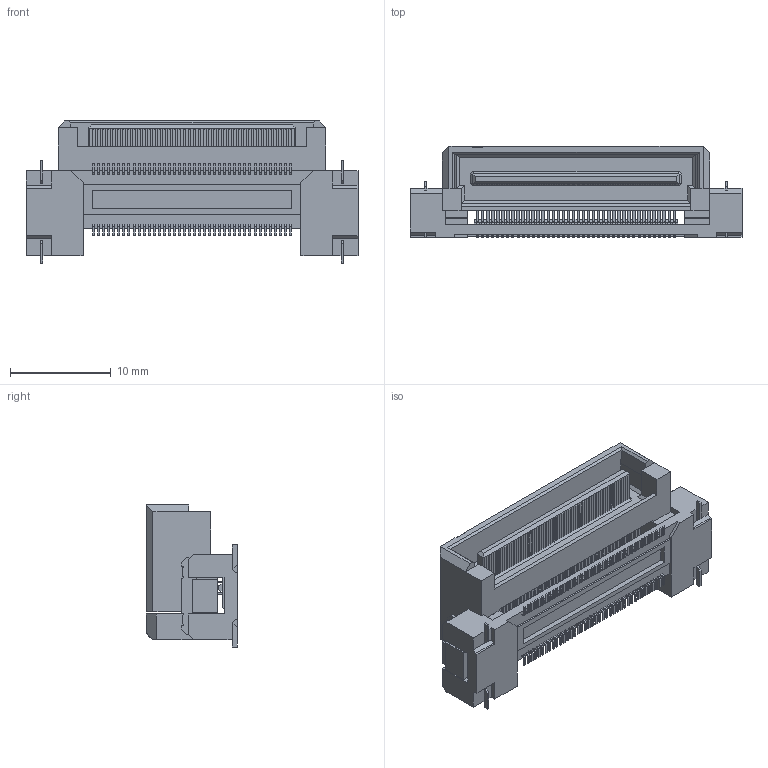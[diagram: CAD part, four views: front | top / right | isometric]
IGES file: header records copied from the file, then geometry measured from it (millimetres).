
Start section: Elysium IGES Interface
Global section: file name: 69HC:\Users\1314\Desktop\temp\回覧用-一時的\DTXX\80\P3D045_DT00-080L.igs; native system: Creo Elements/Direct Modeling 19.0F  14-Feb-2017; preprocessor: Creo Element/Direct IGES_3D V2.2; author: Unknown; organization: Unknown; date: 20170718.112853; units: millimetre
Bounding box: 32.92 x 9.05 x 14.09 mm (x, y, z)
Volume: 1217.8 mm3; surface area: 2936.7 mm2
Topology: 1 solids, 1 shells, 3820 faces, 10648 edges, 6952 vertices
Faces by surface type: bspline 3820
